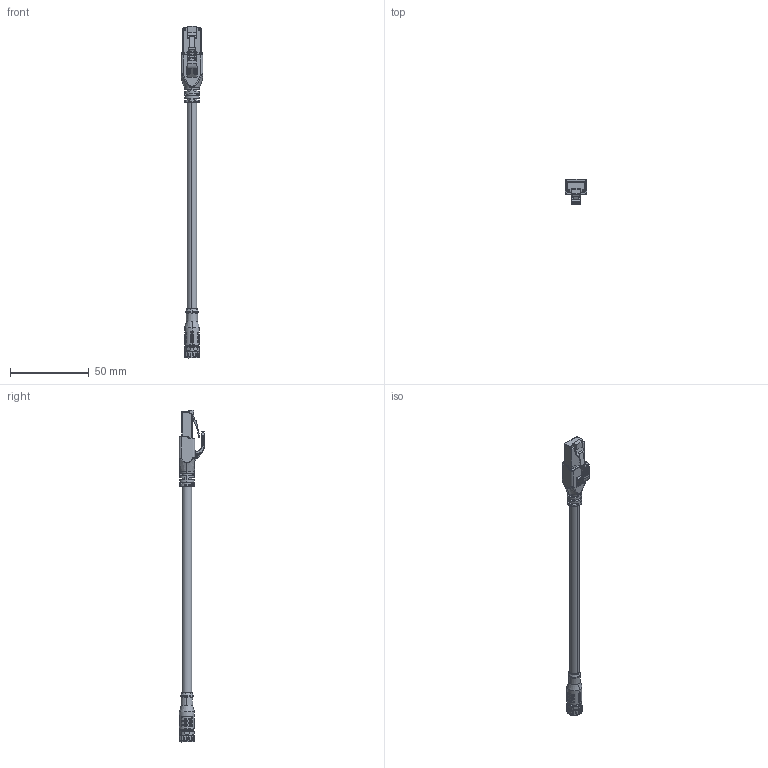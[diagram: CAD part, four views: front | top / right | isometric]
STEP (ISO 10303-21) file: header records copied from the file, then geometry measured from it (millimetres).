
FILE_DESCRIPTION (( 'STEP AP203' ), '1' );
FILE_NAME ('0C3021-XXX.STEP', '2024-12-03T01:05:19', ( 'L' ), ( '' ), 'SwSTEP 2.0', 'SolidWorks 2019', '' );
FILE_SCHEMA (( 'CONFIG_CONTROL_DESIGN' ));
Length unit declared in the file: millimetre
Products named in the file (1): 0C3021-XXX
Bounding box: 13.68 x 16.4 x 211.19 mm (x, y, z)
Volume: 9826.2 mm3; surface area: 6732.5 mm2
Topology: 1 solids, 6 shells, 653 faces, 1710 edges, 1097 vertices
Faces by surface type: cylinder 244, plane 214, bspline 92, cone 55, torus 32, sphere 16
Entity records: 27606 total; most frequent: CARTESIAN_POINT 12530, ORIENTED_EDGE 3420, DIRECTION 2782, EDGE_CURVE 1710, VERTEX_POINT 1097, AXIS2_PLACEMENT_3D 1071, EDGE_LOOP 681, ADVANCED_FACE 653
